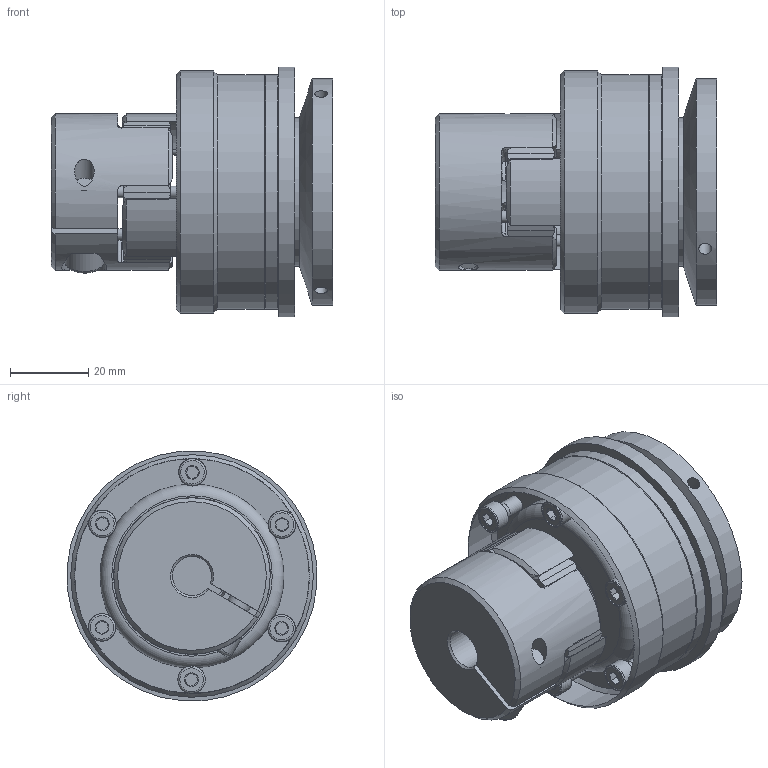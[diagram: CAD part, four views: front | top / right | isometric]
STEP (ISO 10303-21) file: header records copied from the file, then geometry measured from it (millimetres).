
FILE_DESCRIPTION( ( 'Unknown' ), '1' );
FILE_NAME( 'C:/Users/skarpstein/Desktop/Korrigierte 3D Modelle/KBK-E-KP/KBK EKP-19-73.stp', 'Unknown', ( 'Unknown' ), ( 'Unknown' ), 'PSStep 16.0.42', 'Unknown', ' ' );
FILE_SCHEMA( ( 'AUTOMOTIVE_DESIGN { 1 0 10303 214 1 1 1 1 }' ) );
Length unit declared in the file: millimetre
Products named in the file (26): ball_bearing_-_6005_0_02; ball_bearing_-_6005_0_03; ball_bearing_-_6005_0_01; Zahnkranz_19; L-P-30 Grundkörper; Druckring 30; Elastomerflansch 19; ISO EN DIN 4762_M4x16; Stellring 30; a_25; Flansch L30; Assem1_0; Assem1; KBE 2C - 19_Nabe; ISO EN DIN 4762 M6x18
Assembly tree (30 placements, depth 4):
  Assem1
    KBE 2C - 19_Nabe
    ISO EN DIN 4762 M6x18
    Stellring 30
      Stellring 30
    Druckring 30
      Druckring 30
    a_25
      a_25
    Flansch L30
      Flansch L30
    Zahnkranz_19
      Zahnkranz_19
    ISO EN DIN 4762_M4x16  x6
      ISO EN DIN 4762_M4x16
    L-P-30 Grundkörper
      L-P-30 Grundkörper
    Elastomerflansch 19
      Elastomerflansch 19
    Assem1_0
      ball_bearing_-_6005_0_01
        ball_bearing_-_6005_0_01
      ball_bearing_-_6005_0_02
        ball_bearing_-_6005_0_02
      ball_bearing_-_6005_0_03
        ball_bearing_-_6005_0_03
Bounding box: 72 x 63.81 x 63.81 mm (x, y, z)
Volume: 130821.2 mm3; surface area: 64821.2 mm2
Topology: 18 solids, 18 shells, 450 faces, 945 edges, 579 vertices
Faces by surface type: plane 168, cylinder 134, cone 114, torus 34
Full cylindrical faces by diameter (mm): 2 x2, 3 x6, 3.242 x9, 3.5 x6, 4 x12, 4.2 x6, 5 x2, 6 x2, 6.5 x1, 7 x12, 8 x1, 10 x1, 18 x2, 23.9 x1, 25 x3, 32 x2, 34 x1, 38 x2, 40 x1, 40.3 x2, 47 x3, 52 x1, 58 x1, 60 x2, 62 x1, 64 x1
Entity records: 12222 total; most frequent: CARTESIAN_POINT 2275, DIRECTION 1565, ORIENTED_EDGE 1210, AXIS2_PLACEMENT_3D 706, EDGE_CURVE 605, EDGE_LOOP 488, VERTEX_POINT 431, FACE_OUTER_BOUND 402
